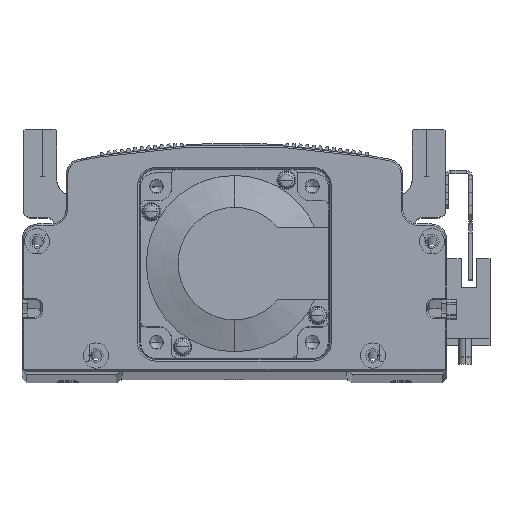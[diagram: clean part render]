
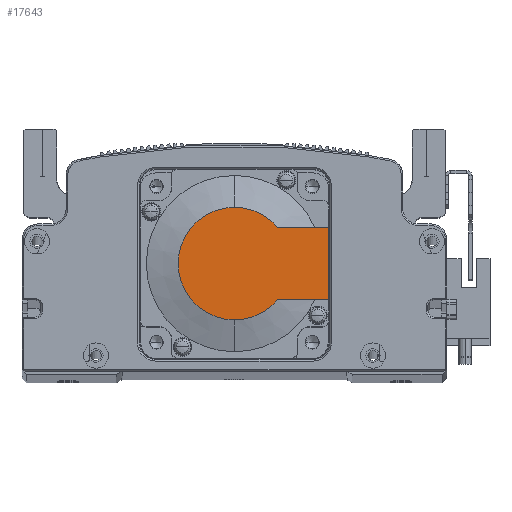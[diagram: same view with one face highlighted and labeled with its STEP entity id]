
A CAD part, top view. The second image highlights one B-rep face of the part: STEP entity #17643.
In plain terms, the highlighted planar face has unit normal (0, 0, 1) as drawn and (-1, 0, 0) by its records, which use the part's own axes.
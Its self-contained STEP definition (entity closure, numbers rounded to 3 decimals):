
#916 = VERTEX_POINT ( 'NONE', #12566 ) ;
#2554 = FACE_OUTER_BOUND ( 'NONE', #63369, .T. ) ;
#6652 = VECTOR ( 'NONE', #43342, 1000. ) ;
#7186 = DIRECTION ( 'NONE',  ( -1., 0., 0. ) ) ;
#10295 = DIRECTION ( 'NONE',  ( -1., 0., 0. ) ) ;
#11137 = CARTESIAN_POINT ( 'NONE',  ( -118.5, 0., 17.881 ) ) ;
#11451 = EDGE_CURVE ( 'NONE', #55640, #24149, #30379, .T. ) ;
#11595 = EDGE_CURVE ( 'NONE', #916, #55640, #39141, .T. ) ;
#12566 = CARTESIAN_POINT ( 'NONE',  ( -118.5, 30., -11.45 ) ) ;
#15897 = PLANE ( 'NONE',  #27745 ) ;
#16662 = LINE ( 'NONE', #44244, #20206 ) ;
#16775 = DIRECTION ( 'NONE',  ( 0., -1., 0. ) ) ;
#17416 = CARTESIAN_POINT ( 'NONE',  ( -118.5, 30., 25. ) ) ;
#17643 = ADVANCED_FACE ( 'NONE', ( #2554 ), #15897, .T. ) ;
#18781 = AXIS2_PLACEMENT_3D ( 'NONE', #35152, #7186, #35394 ) ;
#20206 = VECTOR ( 'NONE', #16775, 1000. ) ;
#20908 = DIRECTION ( 'NONE',  ( 0., 0., -1. ) ) ;
#21876 = ORIENTED_EDGE ( 'NONE', *, *, #56487, .F. ) ;
#22194 = ORIENTED_EDGE ( 'NONE', *, *, #11595, .T. ) ;
#22583 = EDGE_CURVE ( 'NONE', #65733, #51490, #57230, .T. ) ;
#22746 = CIRCLE ( 'NONE', #46499, 17.881 ) ;
#22755 = ORIENTED_EDGE ( 'NONE', *, *, #11451, .T. ) ;
#23212 = ORIENTED_EDGE ( 'NONE', *, *, #47978, .T. ) ;
#23691 = CARTESIAN_POINT ( 'NONE',  ( -118.5, 0., 0. ) ) ;
#24149 = VERTEX_POINT ( 'NONE', #34192 ) ;
#26638 = DIRECTION ( 'NONE',  ( -1., 0., 0. ) ) ;
#27745 = AXIS2_PLACEMENT_3D ( 'NONE', #71767, #26638, #31585 ) ;
#27895 = ORIENTED_EDGE ( 'NONE', *, *, #22583, .T. ) ;
#28898 = DIRECTION ( 'NONE',  ( 0., 0., 1. ) ) ;
#30379 = CIRCLE ( 'NONE', #64064, 17.881 ) ;
#31585 = DIRECTION ( 'NONE',  ( 0., 0., 1. ) ) ;
#33928 = CARTESIAN_POINT ( 'NONE',  ( -118.5, 13.735, 11.45 ) ) ;
#34192 = CARTESIAN_POINT ( 'NONE',  ( -118.5, 0., -17.881 ) ) ;
#35152 = CARTESIAN_POINT ( 'NONE',  ( -118.5, 0., 0. ) ) ;
#35394 = DIRECTION ( 'NONE',  ( 0., 0., -1. ) ) ;
#35689 = DIRECTION ( 'NONE',  ( -1., 0., 0. ) ) ;
#37731 = VERTEX_POINT ( 'NONE', #64209 ) ;
#39141 = LINE ( 'NONE', #70776, #6652 ) ;
#43342 = DIRECTION ( 'NONE',  ( 0., -1., 0. ) ) ;
#44244 = CARTESIAN_POINT ( 'NONE',  ( -118.5, 0., 11.45 ) ) ;
#46438 = ORIENTED_EDGE ( 'NONE', *, *, #65651, .F. ) ;
#46499 = AXIS2_PLACEMENT_3D ( 'NONE', #49825, #10295, #20908 ) ;
#47978 = EDGE_CURVE ( 'NONE', #24149, #65733, #22746, .T. ) ;
#49825 = CARTESIAN_POINT ( 'NONE',  ( -118.5, 0., 0. ) ) ;
#50431 = VECTOR ( 'NONE', #28898, 1000. ) ;
#51490 = VERTEX_POINT ( 'NONE', #33928 ) ;
#55640 = VERTEX_POINT ( 'NONE', #66335 ) ;
#56487 = EDGE_CURVE ( 'NONE', #916, #37731, #70592, .T. ) ;
#57230 = CIRCLE ( 'NONE', #18781, 17.881 ) ;
#63369 = EDGE_LOOP ( 'NONE', ( #22194, #22755, #23212, #27895, #46438, #21876 ) ) ;
#64064 = AXIS2_PLACEMENT_3D ( 'NONE', #23691, #35689, #68830 ) ;
#64209 = CARTESIAN_POINT ( 'NONE',  ( -118.5, 30., 11.45 ) ) ;
#65651 = EDGE_CURVE ( 'NONE', #37731, #51490, #16662, .T. ) ;
#65733 = VERTEX_POINT ( 'NONE', #11137 ) ;
#66335 = CARTESIAN_POINT ( 'NONE',  ( -118.5, 13.735, -11.45 ) ) ;
#68830 = DIRECTION ( 'NONE',  ( 0., 0., -1. ) ) ;
#70592 = LINE ( 'NONE', #17416, #50431 ) ;
#70776 = CARTESIAN_POINT ( 'NONE',  ( -118.5, -8.941, -11.45 ) ) ;
#71767 = CARTESIAN_POINT ( 'NONE',  ( -118.5, -8.941, 0. ) ) ;
